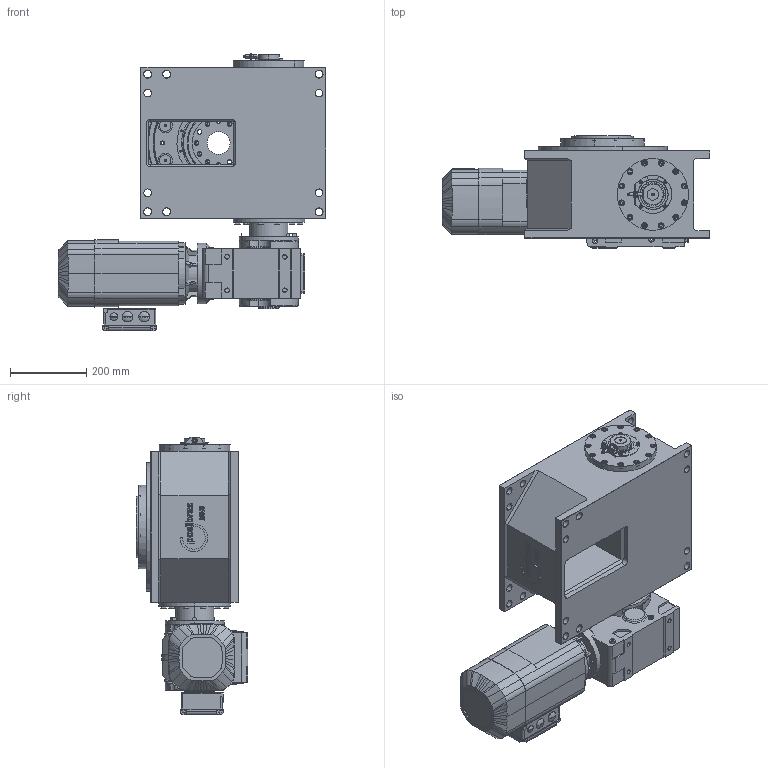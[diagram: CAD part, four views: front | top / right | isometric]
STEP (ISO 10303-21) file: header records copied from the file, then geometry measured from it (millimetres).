
FILE_DESCRIPTION (( 'STEP AP214' ), '1' );
FILE_NAME ('M340_SEW_KA67DRS71S4_D1_10.STEP', '2020-06-17T12:28:31', ( '' ), ( '' ), 'SwSTEP 2.0', 'SolidWorks 2020', '' );
FILE_SCHEMA (( 'AUTOMOTIVE_DESIGN' ));
Length unit declared in the file: millimetre
Products named in the file (1): M340_SEW_KA67DRS71S4_D1_10
Bounding box: 704.5 x 294 x 728.97 mm (x, y, z)
Surface area: 1747262.2 mm2 (no closed solid volume)
Topology: 0 solids, 110 shells, 1749 faces, 5382 edges, 3603 vertices
Faces by surface type: plane 832, cylinder 509, cone 199, torus 104, bspline 99, sphere 6
Entity records: 87421 total; most frequent: CARTESIAN_POINT 20756, DIRECTION 10022, ORIENTED_EDGE 8946, EDGE_CURVE 5342, VERTEX_POINT 3603, AXIS2_PLACEMENT_3D 3550, LINE 2922, VECTOR 2922
